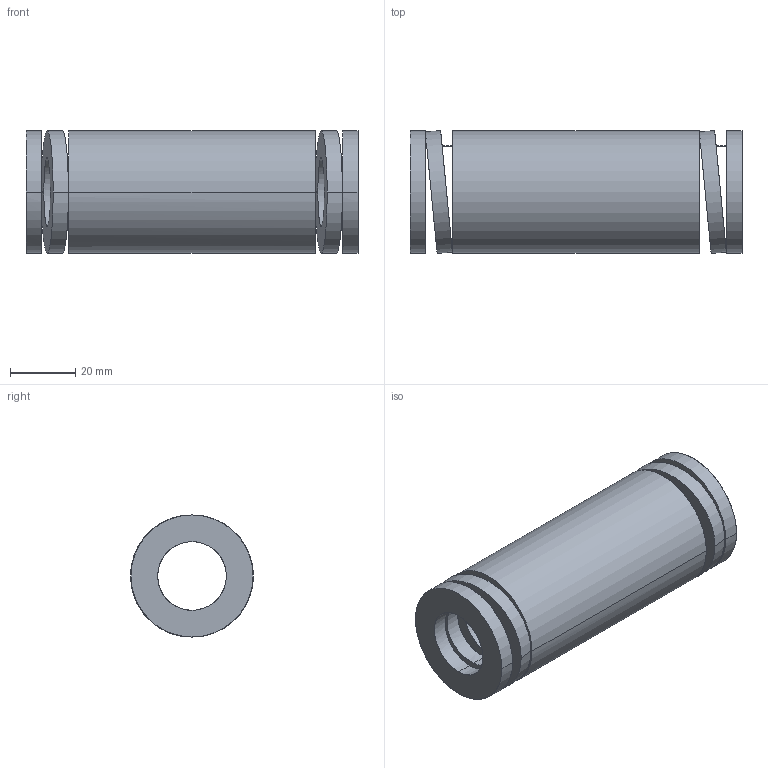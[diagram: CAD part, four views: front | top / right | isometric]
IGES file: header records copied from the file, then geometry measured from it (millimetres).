
Start section: START RECORD GO HERE.
Global section: file name: 392-B40-102.igs; native system: DASSAULT SYSTEMES CATIA V5 R20 - www.3ds.com; preprocessor: CATIA Version 5 Release 20 ; author: Utente; organization: NB04-ASUS; date: 20210813.131803; units: millimetre
Bounding box: 102 x 37.78 x 37.5 mm (x, y, z)
Surface area: 24957.7 mm2 (no closed solid volume)
Topology: 0 solids, 0 shells, 38 faces, 184 edges, 184 vertices
Faces by surface type: revolution 28, plane 10
